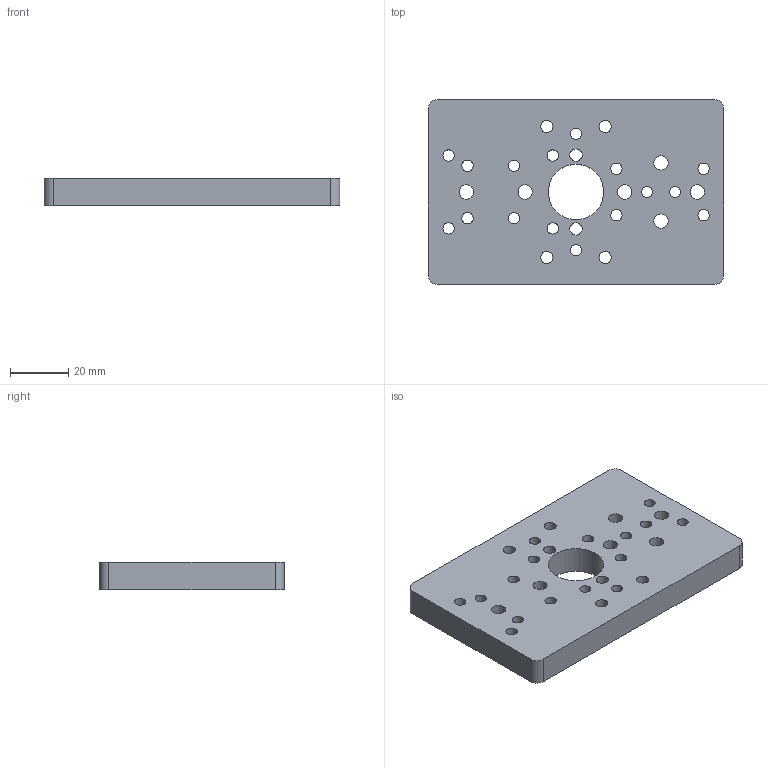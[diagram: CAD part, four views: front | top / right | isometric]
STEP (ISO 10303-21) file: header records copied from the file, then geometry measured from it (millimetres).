
FILE_DESCRIPTION (( 'STEP AP203' ), '1' );
FILE_NAME ('SLM-550-K-CVIV.STEP', '2021-01-29T11:27:03', ( '' ), ( '' ), 'SwSTEP 2.0', 'SolidWorks 2020', '' );
FILE_SCHEMA (( 'CONFIG_CONTROL_DESIGN' ));
Length unit declared in the file: inch
Products named in the file (1): SLM-550-K-CVIV
Bounding box: 101.6 x 63.5 x 9.53 mm (x, y, z)
Volume: 52986.9 mm3; surface area: 19403.2 mm2
Topology: 1 solids, 1 shells, 131 faces, 293 edges, 203 vertices
Faces by surface type: cylinder 71, plane 59, bspline 1
Full cylindrical faces by diameter (mm): 3.912 x16, 4.2 x6, 4.928 x6, 6.248 x16, 6.5 x16, 8.25 x6, 19.05 x1
Entity records: 3420 total; most frequent: DIRECTION 605, CARTESIAN_POINT 556, ORIENTED_EDGE 406, EDGE_LOOP 295, AXIS2_PLACEMENT_3D 273, EDGE_CURVE 203, FACE_OUTER_BOUND 198, VERTEX_POINT 180
